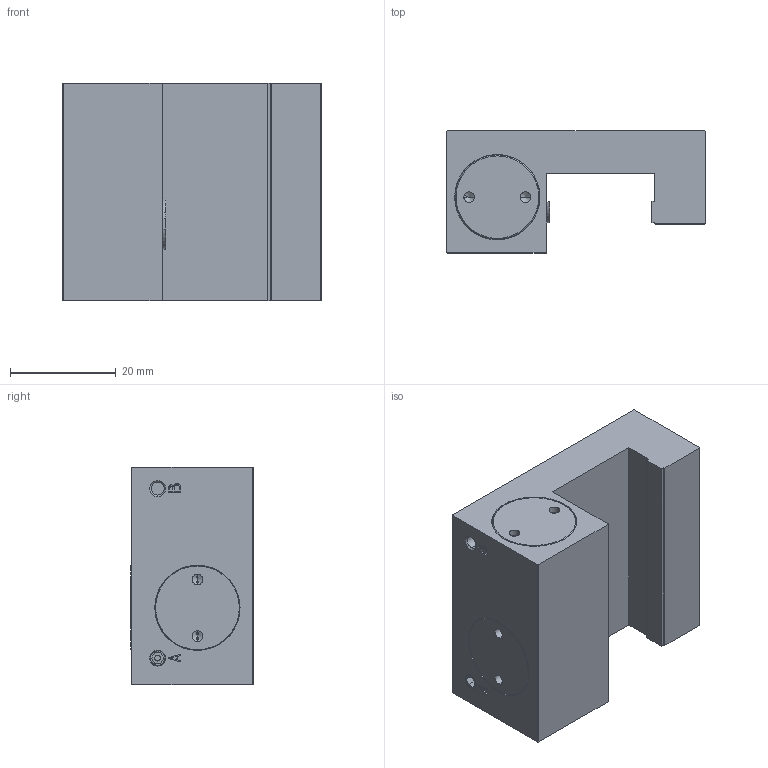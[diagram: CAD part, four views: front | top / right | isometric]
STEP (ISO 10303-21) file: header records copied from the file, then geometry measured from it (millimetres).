
FILE_DESCRIPTION( ( '' ), '1' );
FILE_NAME( 'E:/04 嬴檜蠱滌/0404 ZIMMER/040414 ZIMMER CAD download/MCP/MCP2005A---.stp', '2020-04-16T10:02:50', ( '' ), ( '' ), ' ', ' ', ' ' );
FILE_SCHEMA( ( 'automotive_design' ) );
Length unit declared in the file: millimetre
Products named in the file (1): 1
Bounding box: 48.7 x 23.05 x 41 mm (x, y, z)
Volume: 31250.5 mm3; surface area: 8834.8 mm2
Topology: 1 solids, 1 shells, 122 faces, 289 edges, 182 vertices
Faces by surface type: plane 67, cylinder 33, cone 22
Entity records: 6754 total; most frequent: DIRECTION 609, STYLED_ITEM 586, PRESENTATION_STYLE_ASSIGNMENT 586, CARTESIAN_POINT 586, COLOUR_RGB 586, ORIENTED_EDGE 562, EDGE_CURVE 281, CURVE_STYLE 281
